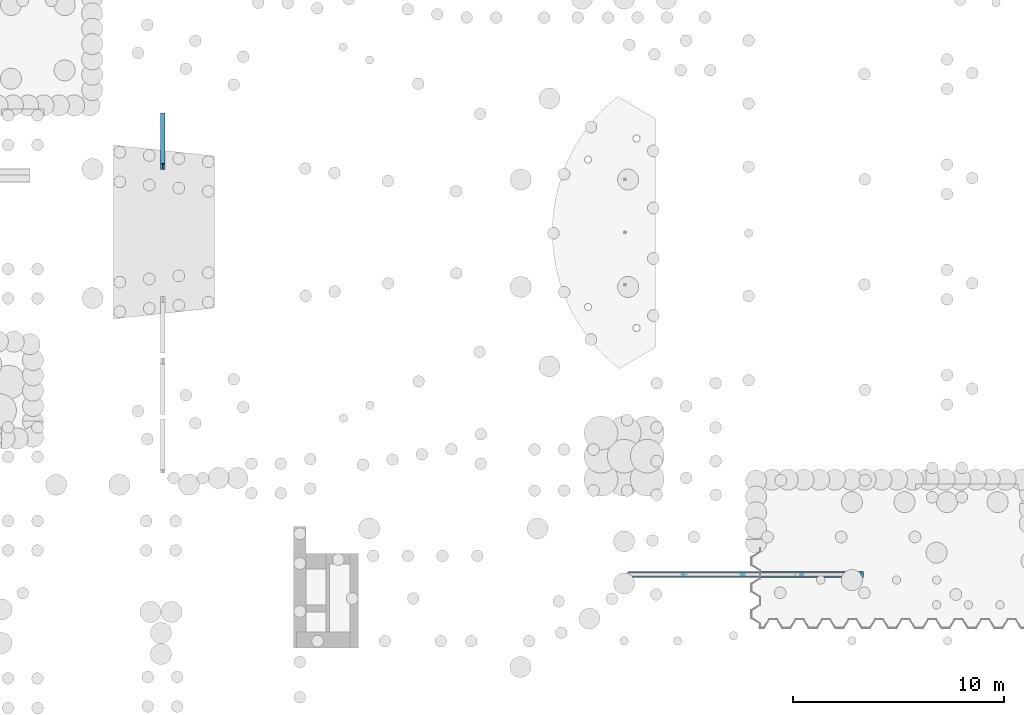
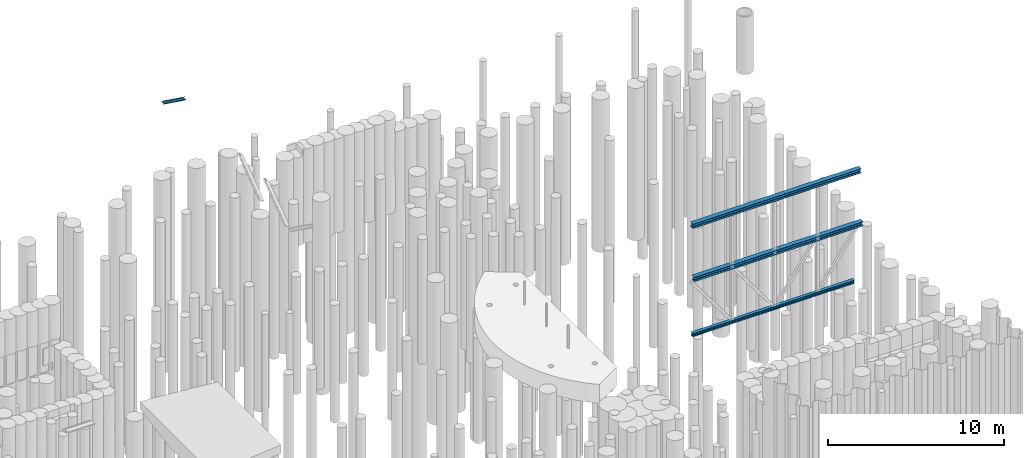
# One storey, part 12 of 104: 4 beams.
"""IFC2X3 building model written with IfcOpenShell, lengths in millimetres."""

from ifc_helpers import new_model, entity, si_unit, converted_unit, derived_unit, direction, frame, frame_2d, origin, place, context, subcontext, project, spatial, i_section, extrude, clip, halfspace, material, type_object, element, save


model = new_model("IFC2X3")

# Units and contexts
model_context = context("Model", 3, precision=0.01, world=origin(), true_north=direction((6.12303176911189e-17, 1.0)))
body_context = subcontext(model_context, "Body", "Model", "MODEL_VIEW")
ifc_project = project(units=[si_unit("LENGTHUNIT", "METRE", prefix="MILLI"), si_unit("AREAUNIT", "SQUARE_METRE", prefix="MILLI"), si_unit("VOLUMEUNIT", "CUBIC_METRE"), converted_unit("PLANEANGLEUNIT", "DEGREE", entity("IfcRatioMeasure", 0.0174532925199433), si_unit("PLANEANGLEUNIT", "RADIAN"), dimensions=[0, 0, 0, 0, 0, 0, 0]), si_unit("MASSUNIT", "GRAM", prefix="KILO"), derived_unit("MASSDENSITYUNIT", [(si_unit("MASSUNIT", "GRAM", prefix="KILO"), 1), (si_unit("LENGTHUNIT", "METRE"), -3)]), derived_unit("MOMENTOFINERTIAUNIT", [(si_unit("LENGTHUNIT", "METRE"), 4)]), si_unit("TIMEUNIT", "SECOND"), si_unit("FREQUENCYUNIT", "HERTZ"), si_unit("THERMODYNAMICTEMPERATUREUNIT", "DEGREE_CELSIUS"), derived_unit("THERMALTRANSMITTANCEUNIT", [(si_unit("MASSUNIT", "GRAM", prefix="KILO"), 1), (si_unit("THERMODYNAMICTEMPERATUREUNIT", "KELVIN"), -1), (si_unit("TIMEUNIT", "SECOND"), -3)]), derived_unit("VOLUMETRICFLOWRATEUNIT", [(si_unit("LENGTHUNIT", "METRE"), 3), (si_unit("TIMEUNIT", "SECOND"), -1)]), si_unit("ELECTRICCURRENTUNIT", "AMPERE"), si_unit("ELECTRICVOLTAGEUNIT", "VOLT"), si_unit("POWERUNIT", "WATT"), si_unit("FORCEUNIT", "NEWTON", prefix="KILO"), si_unit("ILLUMINANCEUNIT", "LUX"), si_unit("LUMINOUSFLUXUNIT", "LUMEN"), si_unit("LUMINOUSINTENSITYUNIT", "CANDELA"), derived_unit("USERDEFINED", [(si_unit("MASSUNIT", "GRAM", prefix="KILO"), -1), (si_unit("LENGTHUNIT", "METRE"), -2), (si_unit("TIMEUNIT", "SECOND"), 3), (si_unit("LUMINOUSFLUXUNIT", "LUMEN"), 1)]), derived_unit("LINEARVELOCITYUNIT", [(si_unit("LENGTHUNIT", "METRE"), 1), (si_unit("TIMEUNIT", "SECOND"), -1)]), si_unit("PRESSUREUNIT", "PASCAL"), derived_unit("USERDEFINED", [(si_unit("LENGTHUNIT", "METRE"), -2), (si_unit("MASSUNIT", "GRAM", prefix="KILO"), 1), (si_unit("TIMEUNIT", "SECOND"), -2)]), derived_unit("LINEARFORCEUNIT", [(si_unit("MASSUNIT", "GRAM", prefix="KILO"), 1), (si_unit("LENGTHUNIT", "METRE"), 1), (si_unit("TIMEUNIT", "SECOND"), -2), (si_unit("LENGTHUNIT", "METRE"), -1)]), derived_unit("PLANARFORCEUNIT", [(si_unit("MASSUNIT", "GRAM", prefix="KILO"), 1), (si_unit("LENGTHUNIT", "METRE"), 1), (si_unit("TIMEUNIT", "SECOND"), -2), (si_unit("LENGTHUNIT", "METRE"), -2)])], contexts=[model_context])

# Site, building, storey
site_placement = place(None, origin())
site = spatial("IfcSite", under=ifc_project, at=site_placement, Name="Theater aan de Parade", CompositionType="ELEMENT")
building_placement = place(site_placement, origin())
building = spatial("IfcBuilding", under=site, at=building_placement, Name="Theater aan de Parade", CompositionType="ELEMENT")
storey_placement = place(building_placement, frame((0.0, 0.0, -5520.0)))
storey = spatial("IfcBuildingStorey", under=building, at=storey_placement, Name="-2 kelder", CompositionType="ELEMENT", Elevation=-5520.0)

# Beams
ifc_material = material(Name="00_PBT_MAT_staal_S355")
beam_type_1 = type_object("IfcBeamType", Name="28_PBT_SF_staal_H-profiel:S355_HE220B", PredefinedType="NOTDEFINED")
beam_1_placement = place(storey_placement, frame((67531.2561009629, 16197.0, 10250.0)))
element("IfcBeam", 1, at=beam_1_placement, inside=storey, type_object=beam_type_1, material=ifc_material, Name="28_PBT_SF_staal_H-profiel:S355_HE220B", ObjectType="28_PBT_SF_staal_H-profiel:S355_HE220B", context=body_context, shape_type="SweptSolid", body=[
    extrude(i_section(OverallWidth=220.000000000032, OverallDepth=220.0, WebThickness=9.49999999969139, FlangeThickness=15.999999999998, FilletRadius=18.0000000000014, at=frame_2d((-1.89714910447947e-12, 3.24718030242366e-12), x_axis=(0.0, 1.0))), frame((187.699999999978, 0.0, 0.0), z_axis=(1.0, 0.0, 0.0), x_axis=(0.0, 0.0, -1.0)), (0.0, 0.0, 1.0), 10631.1439315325),
])
beam_type_2 = type_object("IfcBeamType", Name="28_PBT_SF_staal_H-profiel:S355_HE300B", PredefinedType="NOTDEFINED")
beam_2_placement = place(storey_placement, frame((67531.2561009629, 16197.0, 17830.0)))
element("IfcBeam", 2, at=beam_2_placement, inside=storey, type_object=beam_type_2, material=ifc_material, Name="28_PBT_SF_staal_H-profiel:S355_HE300B", ObjectType="28_PBT_SF_staal_H-profiel:S355_HE300B", context=body_context, shape_type="SweptSolid", body=[
    extrude(i_section(OverallWidth=300.000000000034, OverallDepth=300.000000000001, WebThickness=10.9999999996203, FlangeThickness=18.9999999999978, FilletRadius=27.0000000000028, at=frame_2d((0.0, -4.33431068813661e-12), x_axis=(0.0, 1.0))), frame((187.699999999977, 0.0, 0.0), z_axis=(1.0, 0.0, 0.0), x_axis=(0.0, 0.0, -1.0)), (0.0, 0.0, 1.0), 11054.9028683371),
])
beam_3_placement = place(storey_placement, frame((67641.2561009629, 16197.0, 14100.0)))
element("IfcBeam", 3, at=beam_3_placement, inside=storey, type_object=beam_type_2, material=ifc_material, Name="28_PBT_SF_staal_H-profiel:S355_HE300B", ObjectType="28_PBT_SF_staal_H-profiel:S355_HE300B", context=body_context, shape_type="SweptSolid", body=[
    extrude(i_section(OverallWidth=300.000000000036, OverallDepth=300.0, WebThickness=10.9999999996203, FlangeThickness=18.9999999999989, FilletRadius=27.0000000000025, at=frame_2d((5.40012479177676e-13, -4.33431068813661e-12), x_axis=(0.0, 1.0))), frame((187.70000000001, 0.0, 0.0), z_axis=(1.0, 0.0, 0.0), x_axis=(0.0, 0.0, -1.0)), (0.0, 0.0, 1.0), 11069.9028683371),
])
beam_type_3 = type_object("IfcBeamType", Name="28_PBT_SF_staal_H-profiel:S355_HE200A", PredefinedType="NOTDEFINED")
beam_4_placement = place(storey_placement, frame((45610.0, 35330.0, 22780.0), z_axis=(0.0, 0.585185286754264, 0.810899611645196), x_axis=(0.0, 0.810899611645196, -0.585185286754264)))
element("IfcBeam", 4, at=beam_4_placement, inside=storey, type_object=beam_type_3, material=ifc_material, Name="28_PBT_SF_staal_H-profiel:S355_HE200A", ObjectType="28_PBT_SF_staal_H-profiel:S355_HE200A", context=body_context, shape_type="Clipping", body=[
    clip(clip(clip(clip(extrude(i_section(OverallWidth=199.999999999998, OverallDepth=189.999999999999, WebThickness=6.49999999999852, FlangeThickness=9.99999999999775, FilletRadius=17.9999999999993, at=frame_2d((-9.06652530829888e-12, -4.33431068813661e-12), x_axis=(0.0, 1.0))), frame((192.734954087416, 0.0, 0.0), z_axis=(1.0, 0.0, 0.0), x_axis=(0.0, 0.0, -1.0)), (0.0, 0.0, 1.0), 3232.39632823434), halfspace(frame((-8565.83373969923, -120.0, -8623.26208181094), z_axis=(0.585185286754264, 0.0, -0.810899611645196), x_axis=(0.810899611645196, 0.0, 0.585185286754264)), False)), halfspace(frame((1267.89588144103, 120.0, -1560.42248247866), z_axis=(-0.810899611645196, 0.0, -0.585185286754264), x_axis=(-0.585185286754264, 0.0, 0.810899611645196)), False)), halfspace(frame((3441.10684065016, -120.0, 7.8740860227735), z_axis=(0.810899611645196, 0.0, 0.585185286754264), x_axis=(-0.585185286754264, 0.0, 0.810899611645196)), False)), halfspace(frame((-11705.0274178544, 170.0, -8656.57070884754), z_axis=(-0.585185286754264, 0.0, 0.810899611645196), x_axis=(0.810899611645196, 0.0, 0.585185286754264)), False)),
])

save(model, "model.ifc")
